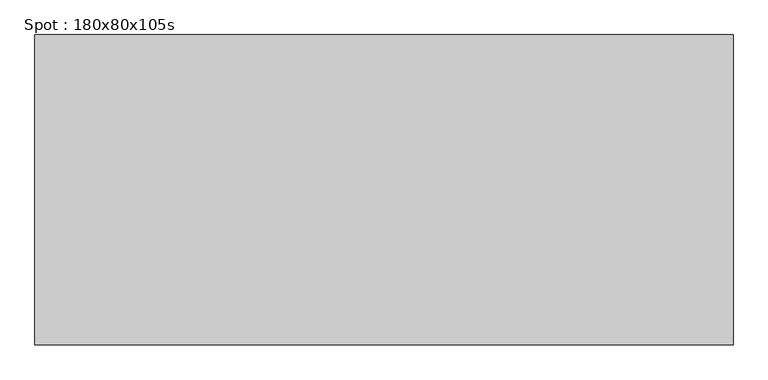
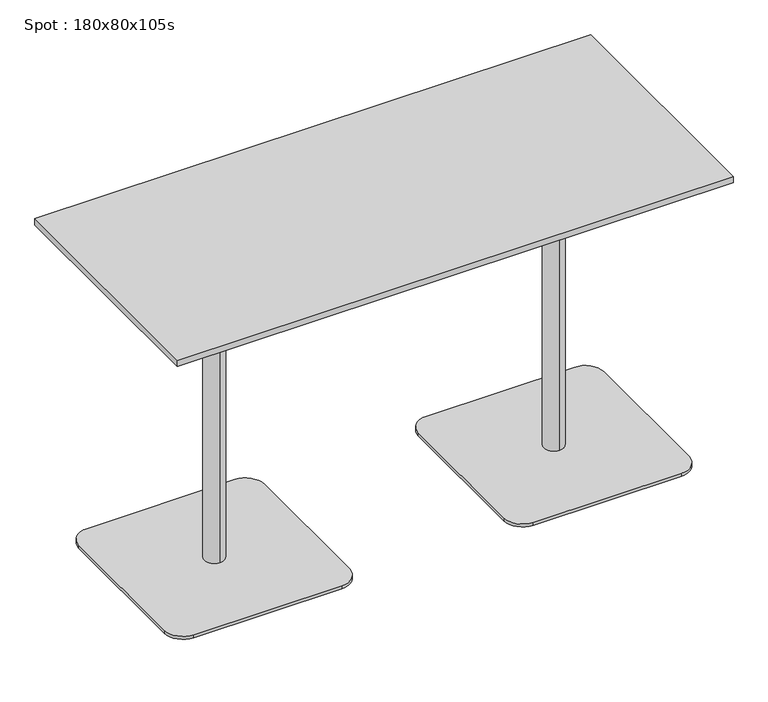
"""IFC4 building model written with IfcOpenShell, lengths in millimetres: furniture geometry, Spot : 180x80x105s."""

from ifc_helpers import new_model, si_unit, point, frame, frame_2d, origin, origin_with_axes, place, context, project, spatial, polyline, circle_curve, trimmed, segment, composite_curve, outline, extrude, source, transform, mapped, element, save
from ifc_brep_helpers import plane_surface, cylinder_surface, revolved_surface, advanced_brep


def spot_180x80x105s_fa29c305(model_context):
    return source(origin(), model_context, "Body", "SolidModel", [
        extrude(outline(polyline([(900.0, 400.0), (900.0, -400.0), (-900.0, -400.0), (-900.0, 400.0), (900.0, 400.0)])), frame((0.0, 0.0, 1028.0), z_axis=(0.0, 0.0, 1.0), x_axis=(1.0, 0.0, 0.0)), (0.0, 0.0, 1.0), 22.0),
        extrude(outline(composite_curve([segment(trimmed(circle_curve(frame_2d((-310.0, 240.0)), 60.0), [point((-310.0, 300.0))], [point((-250.0, 240.0))], False, "CARTESIAN"), True, "CONTINUOUS"), segment(polyline([(-250.0, 240.0), (-250.0, -240.0)]), True, "CONTINUOUS"), segment(trimmed(circle_curve(frame_2d((-310.0, -240.0)), 60.0), [point((-250.0, -240.0))], [point((-310.0, -300.0))], False, "CARTESIAN"), True, "CONTINUOUS"), segment(polyline([(-310.0, -300.0), (-790.0, -300.0)]), True, "CONTINUOUS"), segment(trimmed(circle_curve(frame_2d((-790.0, -240.0)), 60.0), [point((-790.0, -300.0))], [point((-850.0, -240.0))], False, "CARTESIAN"), True, "CONTINUOUS"), segment(polyline([(-850.0, -240.0), (-850.0, 240.0)]), True, "CONTINUOUS"), segment(trimmed(circle_curve(frame_2d((-790.0, 240.0)), 60.0), [point((-850.0, 240.0))], [point((-790.0, 300.0))], False, "CARTESIAN"), True, "CONTINUOUS"), segment(polyline([(-790.0, 300.0), (-310.0, 300.0)]), True, "CONTINUOUS")], self_intersect=False)), origin_with_axes(), (0.0, 0.0, 1.0), 10.0),
        advanced_brep(
        [(-550.0, 32.0, 10.0), (-550.0, -32.0, 10.0), (-550.0, -32.0, 997.406916), (-550.0, 32.0, 997.406916), (-550.0, 0.0, 10.0), (-550.0, 150.0, 1028.0), (-550.0, -150.0, 1028.0), (-550.0, 0.0, 1028.0), (-550.0, 150.0, 1016.7213673), (-550.0, -150.0, 1016.7213673)],
        [
            (0, 1, circle_curve(frame((-550.0, 0.0, 10.0), z_axis=(0.0, 0.0, 1.0), x_axis=(0.0, -1.0, 0.0)), 32.0)),
            (1, 2),
            (2, 3, circle_curve(frame((-550.0, 0.0, 997.406916), z_axis=(0.0, 0.0, -1.0), x_axis=(0.0, -1.0, 0.0)), 32.0)),
            (3, 0),
            (1, 0, circle_curve(frame((-550.0, 0.0, 10.0), z_axis=(0.0, 0.0, 1.0), x_axis=(0.0, -1.0, 0.0)), 32.0)),
            (3, 2, circle_curve(frame((-550.0, 0.0, 997.406916), z_axis=(0.0, 0.0, -1.0), x_axis=(0.0, -1.0, 0.0)), 32.0)),
            (4, 1),
            (0, 4),
            (5, 6, circle_curve(frame((-550.0, 0.0, 1028.0), z_axis=(0.0, 0.0, 1.0), x_axis=(0.0, -1.0, 0.0)), 150.0)),
            (6, 7),
            (7, 5),
            (6, 5, circle_curve(frame((-550.0, 0.0, 1028.0), z_axis=(0.0, 0.0, 1.0), x_axis=(0.0, -1.0, 0.0)), 150.0)),
            (8, 9, circle_curve(frame((-550.0, 0.0, 1016.7213673), z_axis=(0.0, 0.0, 1.0), x_axis=(0.0, -1.0, 0.0)), 150.0)),
            (9, 6),
            (5, 8),
            (9, 8, circle_curve(frame((-550.0, 0.0, 1016.7213673), z_axis=(0.0, 0.0, 1.0), x_axis=(0.0, -1.0, 0.0)), 150.0)),
            (2, 9),
            (8, 3),
        ],
        [
            cylinder_surface(frame((-550.0, 0.0, 1390.0), z_axis=(0.0, 0.0, -1.0), x_axis=(0.0, -1.0, 0.0)), 32.0),
            plane_surface(frame((-550.0, 0.0, 10.0), z_axis=(0.0, 0.0, -1.0), x_axis=(0.0, -1.0, 0.0))),
            plane_surface(frame((-550.0, 0.0, 1028.0), z_axis=(0.0, 0.0, 1.0), x_axis=(0.0, -1.0, 0.0))),
            cylinder_surface(frame((-550.0, 0.0, 1390.0), z_axis=(0.0, 0.0, -1.0), x_axis=(0.0, -1.0, 0.0)), 150.0),
            revolved_surface(polyline([(-550.0, -150.0, 1016.7213673), (-550.0, -32.0, 997.406916)]), (-550.0, 0.0, 1390.0), (0.0, 0.0, -1.0)),
        ],
        [
            (0, [[1, 2, 3, 4]]),
            (0, [[5, -4, 6, -2]]),
            (1, [[7, -1, 8]]),
            (1, [[-8, -5, -7]]),
            (2, [[9, 10, 11]]),
            (2, [[12, -11, -10]]),
            (3, [[13, 14, -9, 15]]),
            (3, [[16, -15, -12, -14]]),
            (4, [[-3, 17, -13, 18]]),
            (4, [[-6, -18, -16, -17]]),
        ],
    ),
        extrude(outline(polyline([(-550.0, 0.0), (-570.0, 0.0), (-570.0, 20.0), (-550.0, 20.0), (-550.0, 0.0)])), origin_with_axes(), (0.0, 0.0, 1.0), 10.0),
        extrude(outline(composite_curve([segment(trimmed(circle_curve(frame_2d((790.0, 240.0)), 60.0), [point((790.0, 300.0))], [point((850.0, 240.0))], False, "CARTESIAN"), True, "CONTINUOUS"), segment(polyline([(850.0, 240.0), (850.0, -240.0)]), True, "CONTINUOUS"), segment(trimmed(circle_curve(frame_2d((790.0, -240.0)), 60.0), [point((850.0, -240.0))], [point((790.0, -300.0))], False, "CARTESIAN"), True, "CONTINUOUS"), segment(polyline([(790.0, -300.0), (310.0, -300.0)]), True, "CONTINUOUS"), segment(trimmed(circle_curve(frame_2d((310.0, -240.0)), 60.0), [point((310.0, -300.0))], [point((250.0, -240.0))], False, "CARTESIAN"), True, "CONTINUOUS"), segment(polyline([(250.0, -240.0), (250.0, 240.0)]), True, "CONTINUOUS"), segment(trimmed(circle_curve(frame_2d((310.0, 240.0)), 60.0), [point((250.0, 240.0))], [point((310.0, 300.0))], False, "CARTESIAN"), True, "CONTINUOUS"), segment(polyline([(310.0, 300.0), (790.0, 300.0)]), True, "CONTINUOUS")], self_intersect=False)), origin_with_axes(), (0.0, 0.0, 1.0), 10.0),
        advanced_brep(
        [(550.0, 32.0, 10.0), (550.0, -32.0, 10.0), (550.0, -32.0, 997.406916), (550.0, 32.0, 997.406916), (550.0, 0.0, 10.0), (550.0, 150.0, 1028.0), (550.0, -150.0, 1028.0), (550.0, 0.0, 1028.0), (550.0, 150.0, 1016.7213673), (550.0, -150.0, 1016.7213673)],
        [
            (0, 1, circle_curve(frame((550.0, 0.0, 10.0), z_axis=(0.0, 0.0, 1.0), x_axis=(0.0, -1.0, 0.0)), 32.0)),
            (1, 2),
            (2, 3, circle_curve(frame((550.0, 0.0, 997.406916), z_axis=(0.0, 0.0, -1.0), x_axis=(0.0, -1.0, 0.0)), 32.0)),
            (3, 0),
            (1, 0, circle_curve(frame((550.0, 0.0, 10.0), z_axis=(0.0, 0.0, 1.0), x_axis=(0.0, -1.0, 0.0)), 32.0)),
            (3, 2, circle_curve(frame((550.0, 0.0, 997.406916), z_axis=(0.0, 0.0, -1.0), x_axis=(0.0, -1.0, 0.0)), 32.0)),
            (4, 1),
            (0, 4),
            (5, 6, circle_curve(frame((550.0, 0.0, 1028.0), z_axis=(0.0, 0.0, 1.0), x_axis=(0.0, -1.0, 0.0)), 150.0)),
            (6, 7),
            (7, 5),
            (6, 5, circle_curve(frame((550.0, 0.0, 1028.0), z_axis=(0.0, 0.0, 1.0), x_axis=(0.0, -1.0, 0.0)), 150.0)),
            (8, 9, circle_curve(frame((550.0, 0.0, 1016.7213673), z_axis=(0.0, 0.0, 1.0), x_axis=(0.0, -1.0, 0.0)), 150.0)),
            (9, 6),
            (5, 8),
            (9, 8, circle_curve(frame((550.0, 0.0, 1016.7213673), z_axis=(0.0, 0.0, 1.0), x_axis=(0.0, -1.0, 0.0)), 150.0)),
            (2, 9),
            (8, 3),
        ],
        [
            cylinder_surface(frame((550.0, 0.0, 1390.0), z_axis=(0.0, 0.0, -1.0), x_axis=(0.0, -1.0, 0.0)), 32.0),
            plane_surface(frame((550.0, 0.0, 10.0), z_axis=(0.0, 0.0, -1.0), x_axis=(0.0, -1.0, 0.0))),
            plane_surface(frame((550.0, 0.0, 1028.0), z_axis=(0.0, 0.0, 1.0), x_axis=(0.0, -1.0, 0.0))),
            cylinder_surface(frame((550.0, 0.0, 1390.0), z_axis=(0.0, 0.0, -1.0), x_axis=(0.0, -1.0, 0.0)), 150.0),
            revolved_surface(polyline([(550.0, -150.0, 1016.7213673), (550.0, -32.0, 997.406916)]), (550.0, 0.0, 1390.0), (0.0, 0.0, -1.0)),
        ],
        [
            (0, [[1, 2, 3, 4]]),
            (0, [[5, -4, 6, -2]]),
            (1, [[7, -1, 8]]),
            (1, [[-8, -5, -7]]),
            (2, [[9, 10, 11]]),
            (2, [[12, -11, -10]]),
            (3, [[13, 14, -9, 15]]),
            (3, [[16, -15, -12, -14]]),
            (4, [[-3, 17, -13, 18]]),
            (4, [[-6, -18, -16, -17]]),
        ],
    ),
        extrude(outline(polyline([(550.0, 0.0), (530.0, 0.0), (530.0, 20.0), (550.0, 20.0), (550.0, 0.0)])), origin_with_axes(), (0.0, 0.0, 1.0), 10.0),
    ])


if __name__ == "__main__":
    model = new_model("IFC4")
    model_context = context("Model", 3, world=origin())
    ifc_project = project(units=[si_unit("LENGTHUNIT", "METRE", prefix="MILLI")], contexts=[model_context])
    site = spatial("IfcSite", under=ifc_project)
    building = spatial("IfcBuilding", under=site)
    placement = place(None, origin())
    spot_180x80x105s_shape = spot_180x80x105s_fa29c305(model_context)
    element("IfcFurniture", 1, ObjectType="Spot : 180x80x105s", at=placement, inside=building, context=model_context, shape_type="MappedRepresentation", body=[
        mapped(spot_180x80x105s_shape, transform((0.0, 0.0, 0.0), x_axis=(1.0, 0.0, 0.0), y_axis=(0.0, 1.0, 0.0), z_axis=(0.0, 0.0, 1.0))),
    ])
    save(model, "model.ifc")
